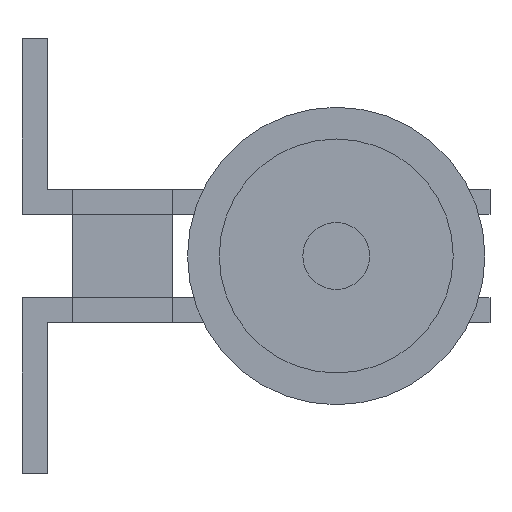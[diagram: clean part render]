
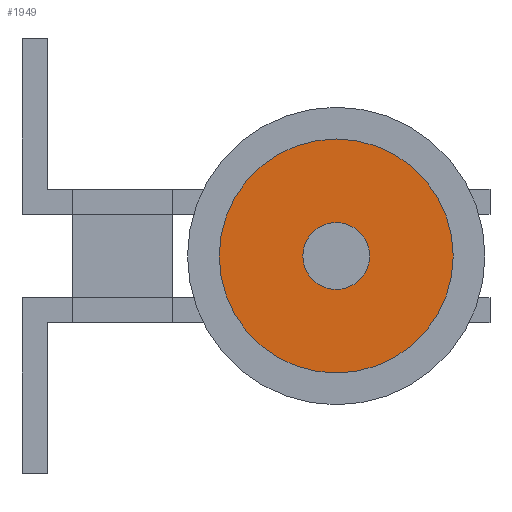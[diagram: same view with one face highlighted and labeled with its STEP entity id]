
A CAD part, front view. The second image highlights one B-rep face of the part: STEP entity #1949.
In plain terms, the highlighted planar face has unit normal (0, -1, 0).
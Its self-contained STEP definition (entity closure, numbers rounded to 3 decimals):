
#1843 = VERTEX_POINT ( 'NONE', #3424 ) ;
#1845 = EDGE_CURVE ( 'NONE', #1846, #1843, #3423, .T. ) ;
#1846 = VERTEX_POINT ( 'NONE', #3418 ) ;
#1894 = VERTEX_POINT ( 'NONE', #3585 ) ;
#1896 = EDGE_CURVE ( 'NONE', #1894, #1897, #3584, .T. ) ;
#1897 = VERTEX_POINT ( 'NONE', #3579 ) ;
#1949 = ADVANCED_FACE ( 'NONE', ( #3663, #3662 ), #3661, .F. ) ;
#1954 = EDGE_LOOP ( 'NONE', ( #1971, #1973 ) ) ;
#1970 = EDGE_LOOP ( 'NONE', ( #1975, #1974 ) ) ;
#1971 = ORIENTED_EDGE ( 'NONE', *, *, #1977, .F. ) ;
#1973 = ORIENTED_EDGE ( 'NONE', *, *, #1896, .F. ) ;
#1974 = ORIENTED_EDGE ( 'NONE', *, *, #1976, .T. ) ;
#1975 = ORIENTED_EDGE ( 'NONE', *, *, #1845, .T. ) ;
#1976 = EDGE_CURVE ( 'NONE', #1843, #1846, #3743, .T. ) ;
#1977 = EDGE_CURVE ( 'NONE', #1897, #1894, #3738, .T. ) ;
#3418 = CARTESIAN_POINT ( 'NONE',  ( 0., 0., -2. ) ) ;
#3419 = DIRECTION ( 'NONE',  ( 0., 0., 1. ) ) ;
#3420 = DIRECTION ( 'NONE',  ( 0., 1., 0. ) ) ;
#3421 = CARTESIAN_POINT ( 'NONE',  ( 0., 0., 0. ) ) ;
#3422 = AXIS2_PLACEMENT_3D ( 'NONE', #3421, #3420, #3419 ) ;
#3423 = CIRCLE ( 'NONE', #3422, 2. ) ;
#3424 = CARTESIAN_POINT ( 'NONE',  ( 0., 0., 2. ) ) ;
#3579 = CARTESIAN_POINT ( 'NONE',  ( 0., 0., -7. ) ) ;
#3580 = DIRECTION ( 'NONE',  ( 0., 0., 1. ) ) ;
#3581 = DIRECTION ( 'NONE',  ( 0., 1., 0. ) ) ;
#3582 = CARTESIAN_POINT ( 'NONE',  ( 0., 0., 0. ) ) ;
#3583 = AXIS2_PLACEMENT_3D ( 'NONE', #3582, #3581, #3580 ) ;
#3584 = CIRCLE ( 'NONE', #3583, 7. ) ;
#3585 = CARTESIAN_POINT ( 'NONE',  ( 0., 0., 7. ) ) ;
#3657 = DIRECTION ( 'NONE',  ( 0., 0., 1. ) ) ;
#3658 = DIRECTION ( 'NONE',  ( 0., 1., 0. ) ) ;
#3659 = CARTESIAN_POINT ( 'NONE',  ( 0., 0., 0. ) ) ;
#3660 = AXIS2_PLACEMENT_3D ( 'NONE', #3659, #3658, #3657 ) ;
#3661 = PLANE ( 'NONE',  #3660 ) ;
#3662 = FACE_BOUND ( 'NONE', #1970, .T. ) ;
#3663 = FACE_OUTER_BOUND ( 'NONE', #1954, .T. ) ;
#3734 = DIRECTION ( 'NONE',  ( 0., 0., 1. ) ) ;
#3735 = DIRECTION ( 'NONE',  ( 0., 1., 0. ) ) ;
#3736 = CARTESIAN_POINT ( 'NONE',  ( 0., 0., 0. ) ) ;
#3737 = AXIS2_PLACEMENT_3D ( 'NONE', #3736, #3735, #3734 ) ;
#3738 = CIRCLE ( 'NONE', #3737, 7. ) ;
#3739 = DIRECTION ( 'NONE',  ( 0., 0., 1. ) ) ;
#3740 = DIRECTION ( 'NONE',  ( 0., 1., 0. ) ) ;
#3741 = CARTESIAN_POINT ( 'NONE',  ( 0., 0., 0. ) ) ;
#3742 = AXIS2_PLACEMENT_3D ( 'NONE', #3741, #3740, #3739 ) ;
#3743 = CIRCLE ( 'NONE', #3742, 2. ) ;
